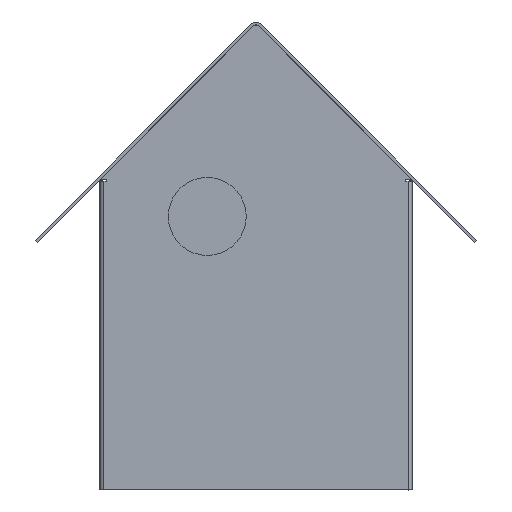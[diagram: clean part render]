
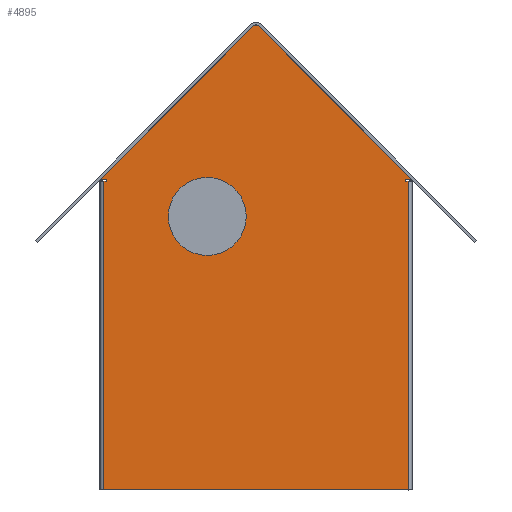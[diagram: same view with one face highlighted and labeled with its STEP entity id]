
A CAD part, top view. The second image highlights one B-rep face of the part: STEP entity #4895.
In plain terms, the highlighted planar face has unit normal (0, 0, 1).
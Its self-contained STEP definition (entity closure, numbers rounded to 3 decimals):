
#315=LINE('',#7854,#769);
#316=LINE('',#7858,#770);
#317=LINE('',#7862,#771);
#318=LINE('',#7864,#772);
#319=LINE('',#7866,#773);
#320=LINE('',#7868,#774);
#321=LINE('',#7870,#775);
#322=LINE('',#7873,#776);
#323=LINE('',#7874,#777);
#769=VECTOR('',#6462,110.926);
#770=VECTOR('',#6465,2.035);
#771=VECTOR('',#6468,1.);
#772=VECTOR('',#6469,158.);
#773=VECTOR('',#6470,156.);
#774=VECTOR('',#6471,158.);
#775=VECTOR('',#6472,1.);
#776=VECTOR('',#6475,2.035);
#777=VECTOR('',#6476,110.926);
#1311=PLANE('',#5331);
#1406=FACE_BOUND('',#1901,.T.);
#1594=FACE_OUTER_BOUND('',#1900,.T.);
#1900=EDGE_LOOP('',(#4139,#4140,#4141,#4142,#4143,#4144,#4145,#4146,#4147,
#4148,#4149,#4150,#4151,#4152,#4153,#4154));
#1901=EDGE_LOOP('',(#4155));
#2007=CIRCLE('',#4998,20.);
#2149=CIRCLE('',#5314,0.5);
#2161=CIRCLE('',#5332,1.5);
#2162=CIRCLE('',#5333,3.);
#2163=CIRCLE('',#5334,1.5);
#2164=CIRCLE('',#5335,0.5);
#2165=CIRCLE('',#5336,0.5);
#2166=CIRCLE('',#5337,0.5);
#2215=VERTEX_POINT('',#6914);
#2484=VERTEX_POINT('',#7777);
#2486=VERTEX_POINT('',#7780);
#2513=VERTEX_POINT('',#7846);
#2514=VERTEX_POINT('',#7847);
#2515=VERTEX_POINT('',#7849);
#2516=VERTEX_POINT('',#7851);
#2517=VERTEX_POINT('',#7853);
#2518=VERTEX_POINT('',#7855);
#2519=VERTEX_POINT('',#7857);
#2520=VERTEX_POINT('',#7859);
#2521=VERTEX_POINT('',#7861);
#2522=VERTEX_POINT('',#7863);
#2523=VERTEX_POINT('',#7865);
#2524=VERTEX_POINT('',#7867);
#2525=VERTEX_POINT('',#7869);
#2526=VERTEX_POINT('',#7871);
#2629=EDGE_CURVE('',#2215,#2215,#2007,.T.);
#3050=EDGE_CURVE('',#2484,#2486,#2149,.T.);
#3083=EDGE_CURVE('',#2513,#2514,#2161,.T.);
#3084=EDGE_CURVE('',#2515,#2513,#2162,.T.);
#3085=EDGE_CURVE('',#2516,#2515,#2163,.T.);
#3086=EDGE_CURVE('',#2517,#2516,#315,.T.);
#3087=EDGE_CURVE('',#2518,#2517,#2164,.T.);
#3088=EDGE_CURVE('',#2519,#2518,#316,.T.);
#3089=EDGE_CURVE('',#2520,#2519,#2165,.T.);
#3090=EDGE_CURVE('',#2521,#2520,#317,.T.);
#3091=EDGE_CURVE('',#2521,#2522,#318,.T.);
#3092=EDGE_CURVE('',#2523,#2522,#319,.T.);
#3093=EDGE_CURVE('',#2523,#2524,#320,.T.);
#3094=EDGE_CURVE('',#2525,#2524,#321,.T.);
#3095=EDGE_CURVE('',#2526,#2525,#2166,.T.);
#3096=EDGE_CURVE('',#2486,#2526,#322,.T.);
#3097=EDGE_CURVE('',#2514,#2484,#323,.T.);
#4139=ORIENTED_EDGE('',*,*,#3083,.F.);
#4140=ORIENTED_EDGE('',*,*,#3084,.F.);
#4141=ORIENTED_EDGE('',*,*,#3085,.F.);
#4142=ORIENTED_EDGE('',*,*,#3086,.F.);
#4143=ORIENTED_EDGE('',*,*,#3087,.F.);
#4144=ORIENTED_EDGE('',*,*,#3088,.F.);
#4145=ORIENTED_EDGE('',*,*,#3089,.F.);
#4146=ORIENTED_EDGE('',*,*,#3090,.F.);
#4147=ORIENTED_EDGE('',*,*,#3091,.T.);
#4148=ORIENTED_EDGE('',*,*,#3092,.F.);
#4149=ORIENTED_EDGE('',*,*,#3093,.T.);
#4150=ORIENTED_EDGE('',*,*,#3094,.F.);
#4151=ORIENTED_EDGE('',*,*,#3095,.F.);
#4152=ORIENTED_EDGE('',*,*,#3096,.F.);
#4153=ORIENTED_EDGE('',*,*,#3050,.F.);
#4154=ORIENTED_EDGE('',*,*,#3097,.F.);
#4155=ORIENTED_EDGE('',*,*,#2629,.T.);
#4895=ADVANCED_FACE('',(#1594,#1406),#1311,.T.);
#4998=AXIS2_PLACEMENT_3D('',#6915,#5488,#5489);
#5314=AXIS2_PLACEMENT_3D('',#7781,#6399,#6400);
#5331=AXIS2_PLACEMENT_3D('',#7845,#6454,#6455);
#5332=AXIS2_PLACEMENT_3D('',#7848,#6456,#6457);
#5333=AXIS2_PLACEMENT_3D('',#7850,#6458,#6459);
#5334=AXIS2_PLACEMENT_3D('',#7852,#6460,#6461);
#5335=AXIS2_PLACEMENT_3D('',#7856,#6463,#6464);
#5336=AXIS2_PLACEMENT_3D('',#7860,#6466,#6467);
#5337=AXIS2_PLACEMENT_3D('',#7872,#6473,#6474);
#5488=DIRECTION('center_axis',(0.,0.,
-1.));
#5489=DIRECTION('ref_axis',(-1.,0.,0.));
#6399=DIRECTION('center_axis',(0.,0.,
-1.));
#6400=DIRECTION('ref_axis',(0.,1.,0.));
#6454=DIRECTION('center_axis',(0.,0.,
1.));
#6455=DIRECTION('ref_axis',(1.,0.,0.));
#6456=DIRECTION('center_axis',(0.,0.,
-1.));
#6457=DIRECTION('ref_axis',(-0.707,0.707,0.));
#6458=DIRECTION('center_axis',(0.,0.,
-1.));
#6459=DIRECTION('ref_axis',(-0.707,-0.707,0.));
#6460=DIRECTION('center_axis',(0.,0.,
-1.));
#6461=DIRECTION('ref_axis',(-0.707,0.707,0.));
#6462=DIRECTION('',(0.707,0.707,0.));
#6463=DIRECTION('center_axis',(0.,0.,
-1.));
#6464=DIRECTION('ref_axis',(0.707,-0.707,0.));
#6465=DIRECTION('',(-1.,0.,0.));
#6466=DIRECTION('center_axis',(0.,0.,
1.));
#6467=DIRECTION('ref_axis',(0.,-1.,0.));
#6468=DIRECTION('',(1.,0.,0.));
#6469=DIRECTION('',(0.,-1.,0.));
#6470=DIRECTION('',(-1.,0.,0.));
#6471=DIRECTION('',(0.,1.,0.));
#6472=DIRECTION('',(1.,0.,0.));
#6473=DIRECTION('center_axis',(0.,0.,
1.));
#6474=DIRECTION('ref_axis',(0.,1.,0.));
#6475=DIRECTION('',(-1.,0.,0.));
#6476=DIRECTION('',(0.707,-0.707,0.));
#6914=CARTESIAN_POINT('',(-5.,140.,203.171));
#6915=CARTESIAN_POINT('Origin',(-25.,140.,203.171));
#7777=CARTESIAN_POINT('',(79.497,159.309,203.171));
#7780=CARTESIAN_POINT('',(79.036,159.,203.171));
#7781=CARTESIAN_POINT('Origin',(79.036,159.5,203.171));
#7845=CARTESIAN_POINT('Origin',(0.,100.627,203.171));
#7846=CARTESIAN_POINT('',(0.95,237.846,203.171));
#7847=CARTESIAN_POINT('',(1.061,237.745,203.171));
#7848=CARTESIAN_POINT('Origin',(0.,236.685,203.171));
#7849=CARTESIAN_POINT('',(-0.95,237.846,203.171));
#7850=CARTESIAN_POINT('Origin',(0.,235.,203.171));
#7851=CARTESIAN_POINT('',(-1.061,237.745,203.171));
#7852=CARTESIAN_POINT('Origin',(0.,236.685,203.171));
#7853=CARTESIAN_POINT('',(-79.497,159.309,203.171));
#7854=CARTESIAN_POINT('',(-35.075,203.731,203.171));
#7855=CARTESIAN_POINT('',(-79.036,159.,203.171));
#7856=CARTESIAN_POINT('Origin',(-79.036,159.5,203.171));
#7857=CARTESIAN_POINT('',(-77.,159.,203.171));
#7858=CARTESIAN_POINT('',(-77.,159.,203.171));
#7859=CARTESIAN_POINT('',(-77.,158.,203.171));
#7860=CARTESIAN_POINT('Origin',(-77.,158.5,203.171));
#7861=CARTESIAN_POINT('',(-78.,158.,203.171));
#7862=CARTESIAN_POINT('',(-80.,158.,203.171));
#7863=CARTESIAN_POINT('',(-78.,0.,203.171));
#7864=CARTESIAN_POINT('',(-78.,129.314,203.171));
#7865=CARTESIAN_POINT('',(78.,0.,203.171));
#7866=CARTESIAN_POINT('',(80.,0.,203.171));
#7867=CARTESIAN_POINT('',(78.,158.,203.171));
#7868=CARTESIAN_POINT('',(78.,50.314,203.171));
#7869=CARTESIAN_POINT('',(77.,158.,203.171));
#7870=CARTESIAN_POINT('',(77.,158.,203.171));
#7871=CARTESIAN_POINT('',(77.,159.,203.171));
#7872=CARTESIAN_POINT('Origin',(77.,158.5,203.171));
#7873=CARTESIAN_POINT('',(79.036,159.,203.171));
#7874=CARTESIAN_POINT('',(90.583,148.223,203.171));
